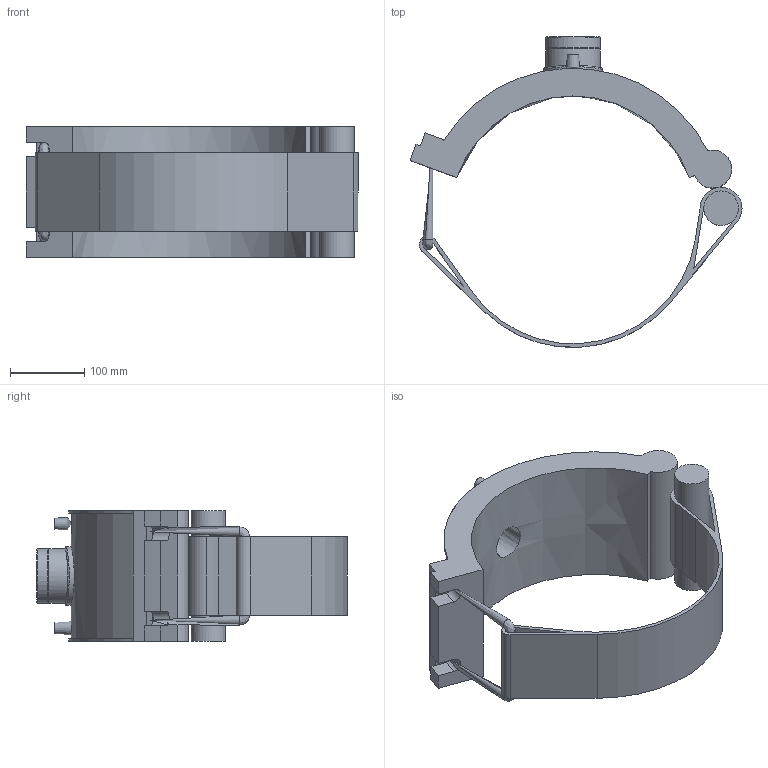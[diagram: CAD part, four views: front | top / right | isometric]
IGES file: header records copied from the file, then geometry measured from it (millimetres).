
Global section: file name: 5938D01312055.ipt; native system: Autodesk Inventor 2019; preprocessor: unknown; author: KIM; date: 20210830.101154; units: inch
Bounding box: 447.33 x 418.67 x 176.02 mm (x, y, z)
Volume: 3986818.5 mm3; surface area: 473268.6 mm2
Topology: 2 solids, 2 shells, 78 faces, 198 edges, 130 vertices
Faces by surface type: plane 42, cylinder 19, revolution 11, cone 5, bspline 1
Full cylindrical faces by diameter (mm): 4 x2, 13.352 x2, 46.475 x1, 72.653 x1, 73.653 x2, 79.318 x1
